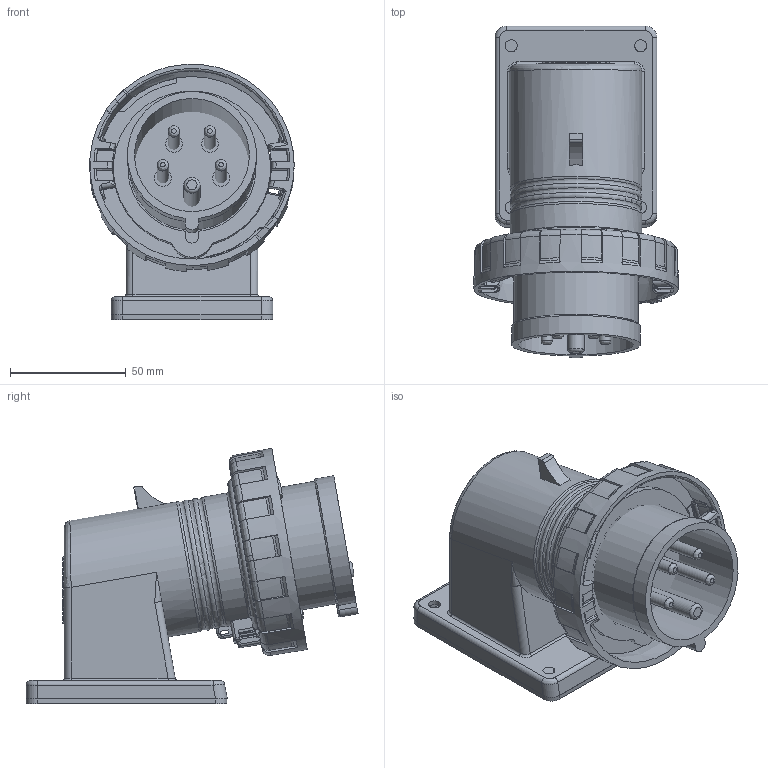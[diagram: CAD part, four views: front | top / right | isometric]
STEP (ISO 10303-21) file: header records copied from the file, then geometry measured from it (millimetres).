
FILE_DESCRIPTION(/* description */ (''),/* implementation_level */ '2;1');
FILE_NAME(/* name */ '4005303.stp',/* time_stamp */ '2017-05-02T21:51:45+02:00',/* author */ (''),/* organization */ (''),/* preprocessor_version */ 'ST-DEVELOPER v16',/* originating_system */ 'SIEMENS PLM Software NX 11.0',/* authorisation */ '');
FILE_SCHEMA (('AUTOMOTIVE_DESIGN { 1 0 10303 214 3 1 1 1 }'));
Length unit declared in the file: millimetre
Products named in the file (1): 4005303_LINKEDEXT_jt
Bounding box: 88.36 x 143.57 x 110.34 mm (x, y, z)
Surface area: 87409.5 mm2 (no closed solid volume)
Topology: 0 solids, 34 shells, 417 faces, 1361 edges, 957 vertices
Faces by surface type: plane 154, cylinder 97, bspline 92, cone 38, torus 33, sphere 3
Full cylindrical faces by diameter (mm): 5 x4, 6 x2, 7 x1, 22 x1, 23.9 x1, 49.7 x1, 53.8 x1, 57 x1, 68 x1, 77.6 x1
Entity records: 23820 total; most frequent: CARTESIAN_POINT 11562, ORIENTED_EDGE 2122, DIRECTION 1965, EDGE_CURVE 1299, VERTEX_POINT 938, AXIS2_PLACEMENT_3D 706, LINE 553, VECTOR 553
